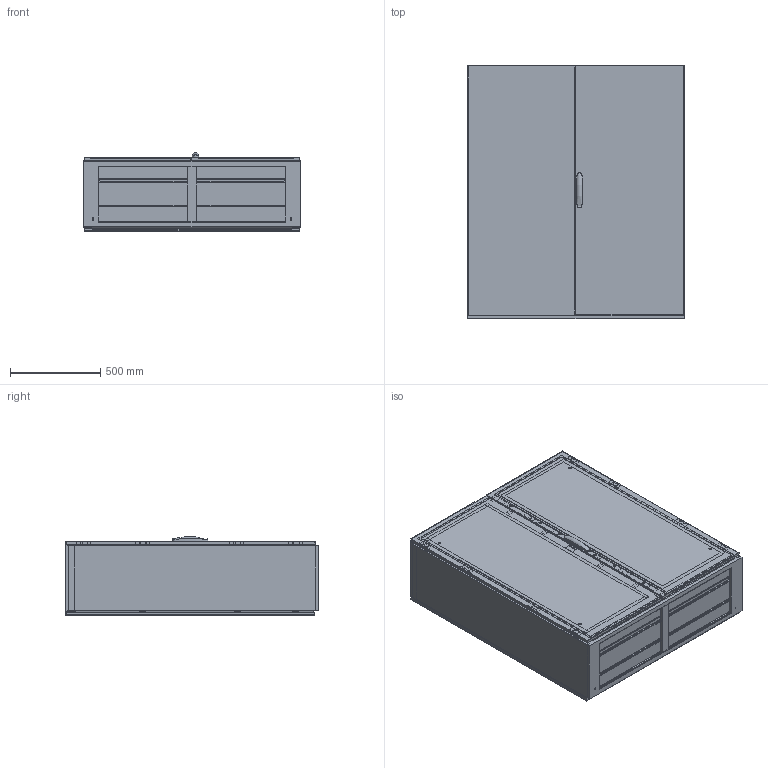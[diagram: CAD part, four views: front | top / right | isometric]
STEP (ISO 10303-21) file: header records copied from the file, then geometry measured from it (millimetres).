
FILE_DESCRIPTION(/* description */ ('STEP AP203'),/* implementation_level */ '2;1');
FILE_NAME(/* name */ 'MKD14124R5(0)',/* time_stamp */ '2024-02-23T09:46:31+01:00',/* author */ ('License CC BY-ND 4.0'),/* organization */ ('CADENAS'),/* preprocessor_version */ 'ST-DEVELOPER v19.3',/* originating_system */ 'PARTsolutions',/* authorisation */ ' ');
FILE_SCHEMA (('CONFIG_CONTROL_DESIGN'));
Length unit declared in the file: millimetre
Products named in the file (25): MKD14124R5(0); MKD14124R5(0)_Frame; CRPK12(0)_Rear Panel Mounting Kit; CRP1412R5(0)_Rear Panel; CRPK12(0)_Rear Panel Bracket; DNMK02(0)_Hinge Right; DN1406RR5(0)_Right door; LSSDXXXX(0)_Lock; LSSD1400(0)_Espagnolette Top; LSSD1400(0)_Espagnolette Bottom; DNMK02(0)_Hinge Left; DN1406LR5(0)_Left door; LSEL1400(0)_Left Door Espagnolette; DNMK01(0)_Rod catches; MPA06(0)_Mounting Plate Brackets 1; MP1412(0)_P1; MPA06(0)_Mounting Plate Brackets 2; MPA06(0)_Mounting Plate Brackets 3; MPA06(0)_Mounting Plate Brackets 4; CCR124R5(0)_MKD Roof plate; Bottom Plate Profile_1200x400(0); CBP120(0)_Bottom Plate 1; CBP120(0)_Bottom Plate 2; LSSD1400(0)_Lock Catch; LSELXX12X(0)_Left Door Espagnolette
Assembly tree (47 placements, depth 2):
  MKD14124R5(0)
    MKD14124R5(0)_Frame
    CRPK12(0)_Rear Panel Mounting Kit  x8
    CRP1412R5(0)_Rear Panel
    CRPK12(0)_Rear Panel Bracket  x2
    DNMK02(0)_Hinge Right  x4
    DN1406RR5(0)_Right door
    LSSDXXXX(0)_Lock
    LSSD1400(0)_Espagnolette Top
    LSSD1400(0)_Espagnolette Bottom
    DNMK02(0)_Hinge Left  x4
    DN1406LR5(0)_Left door
    LSEL1400(0)_Left Door Espagnolette
    DNMK01(0)_Rod catches  x4
    MPA06(0)_Mounting Plate Brackets 1
    MP1412(0)_P1
    MPA06(0)_Mounting Plate Brackets 2
    MPA06(0)_Mounting Plate Brackets 3
    MPA06(0)_Mounting Plate Brackets 4
    CCR124R5(0)_MKD Roof plate
    Bottom Plate Profile_1200x400(0)
    CBP120(0)_Bottom Plate 1  x4
    CBP120(0)_Bottom Plate 2  x2
    LSSD1400(0)_Lock Catch  x2
    LSELXX12X(0)_Left Door Espagnolette  x2
Bounding box: 1200 x 1405 x 434.85 mm (x, y, z)
Volume: 28653821.1 mm3; surface area: 17066995.2 mm2
Topology: 47 solids, 47 shells, 2164 faces, 5813 edges, 3839 vertices
Faces by surface type: plane 1900, cylinder 195, cone 66, sphere 2, torus 1
Full cylindrical faces by diameter (mm): 2.55 x2, 5 x26, 5.2 x2, 5.8 x2, 6 x6, 6.5 x2, 7 x6, 7.4 x4, 8 x22, 9 x2, 10 x12, 12.5 x1, 13 x3, 14 x6, 14.12 x1, 15 x4
Entity records: 48629 total; most frequent: CARTESIAN_POINT 8295, ORIENTED_EDGE 7860, DIRECTION 7453, EDGE_CURVE 3930, LINE 3513, VECTOR 3513, VERTEX_POINT 2662, AXIS2_PLACEMENT_3D 1970
